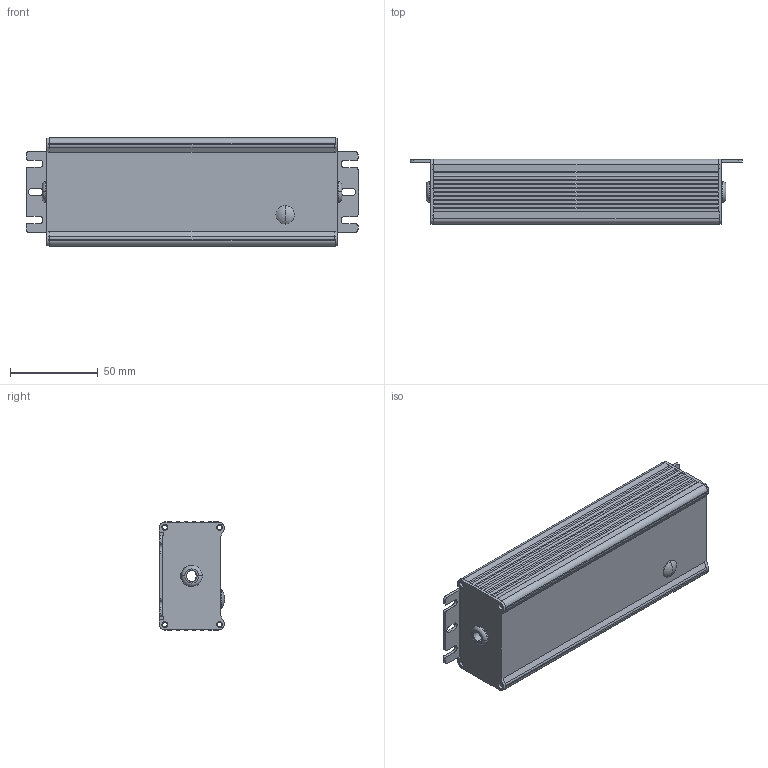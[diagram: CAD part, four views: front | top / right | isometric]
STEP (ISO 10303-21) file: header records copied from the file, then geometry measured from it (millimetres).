
FILE_DESCRIPTION(('Creo Elements/Direct Modeling STEP Export'),'2;1');
FILE_NAME('HVGC-65.stp','2015-01-21T17:32:53',(''),(''),'PTC Creo Elements/Direct Modeling STEP processor for AP214 (Solid Model)','PTC Creo Elements/Direct Modeling 19.0 09-May-2014 (C) Parametric Technology GmbH','');
FILE_SCHEMA(('AUTOMOTIVE_DESIGN { 1 0 10303 214 1 1 1 1 }'));
Length unit declared in the file: millimetre
Products named in the file (1): FFF
Bounding box: 189 x 37.09 x 61.5 mm (x, y, z)
Volume: 80801.1 mm3; surface area: 79072.3 mm2
Topology: 1 solids, 1 shells, 319 faces, 890 edges, 567 vertices
Faces by surface type: plane 201, cylinder 100, cone 8, torus 8, sphere 2
Entity records: 9297 total; most frequent: ORIENTED_EDGE 1776, CARTESIAN_POINT 1570, DIRECTION 1448, EDGE_CURVE 888, VERTEX_POINT 567, VECTOR 558, LINE 558, AXIS2_PLACEMENT_3D 445
